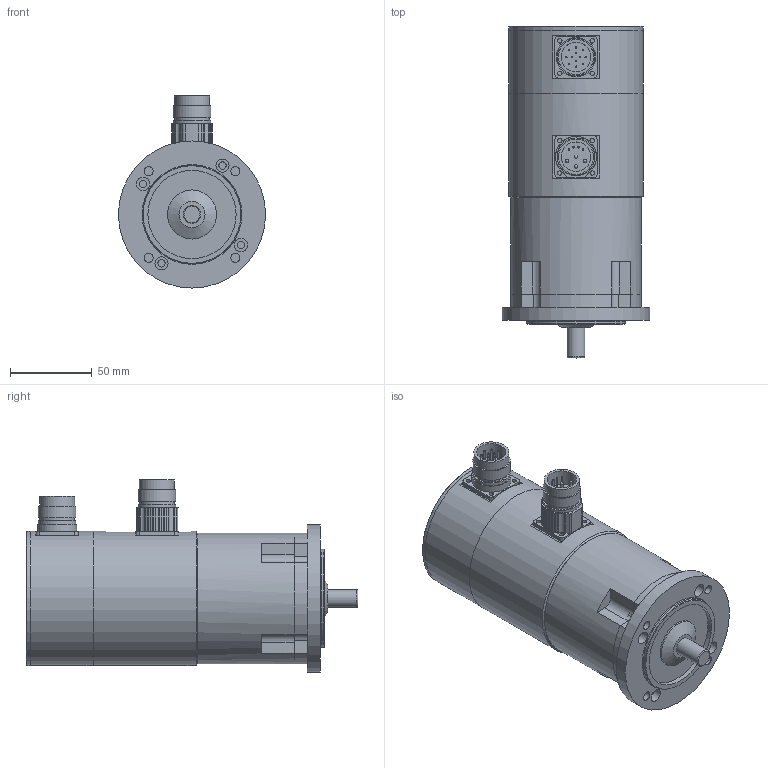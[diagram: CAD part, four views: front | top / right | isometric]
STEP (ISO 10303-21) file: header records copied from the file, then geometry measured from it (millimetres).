
FILE_DESCRIPTION(/* description */ (''),/* implementation_level */ '2;1');
FILE_NAME(/* name */ 'ksy_264e_rx',/* time_stamp */ '2007-03-16T13:53:53+01:00',/* author */ (''),/* organization */ (''),/* preprocessor_version */ 'ST-DEVELOPER v8',/* originating_system */ 'UNIGRAPHICS SOLUTIONS - UNIGRAPHICS 18.0',/* authorisation */ '');
FILE_SCHEMA (('AUTOMOTIVE_DESIGN { 1 2 10303 214 0 1 1 1 }'));
Length unit declared in the file: millimetre
Products named in the file (11): 014261_0; 014260_0; 064260_0; 064312_0; 112088_0; 06330301_0; DIN3760_org_A12x24x7_0; Rotor_SY 26.. E_0; Gehaeuse_SY26.. E_0; 112072_0; KSY264_E-RC_0
Assembly tree (10 placements, depth 2):
  KSY264_E-RC_0
    112072_0
    Gehaeuse_SY26.. E_0
    Rotor_SY 26.. E_0
    DIN3760_org_A12x24x7_0
    06330301_0
    112088_0
    064312_0
    064260_0
    014260_0
    014261_0
Bounding box: 90 x 203 x 117.5 mm (x, y, z)
Volume: 758737.2 mm3; surface area: 130895 mm2
Topology: 10 solids, 10 shells, 296 faces, 738 edges, 475 vertices
Faces by surface type: cylinder 159, plane 94, sphere 20, cone 16, torus 7
Full cylindrical faces by diameter (mm): 1 x16, 2 x4, 2.7 x8, 3.5 x4, 4.5 x4, 5.5 x4, 8 x4, 10.52 x1, 10.94 x1, 11 x1, 12 x2, 12.3 x1, 18 x2, 20 x4, 21 x3, 21.5 x2, 23 x4, 24 x3, 30 x1, 32 x1, 54 x1, 60 x2, 63.3 x1, 64 x1, 64.3 x1, 65 x2, 66 x2, 80 x1, 82 x3, 90 x1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
Entity records: 8024 total; most frequent: DIRECTION 1500, CARTESIAN_POINT 1247, ORIENTED_EDGE 1052, AXIS2_PLACEMENT_3D 667, EDGE_CURVE 526, EDGE_LOOP 506, VERTEX_POINT 414, CIRCLE 360
